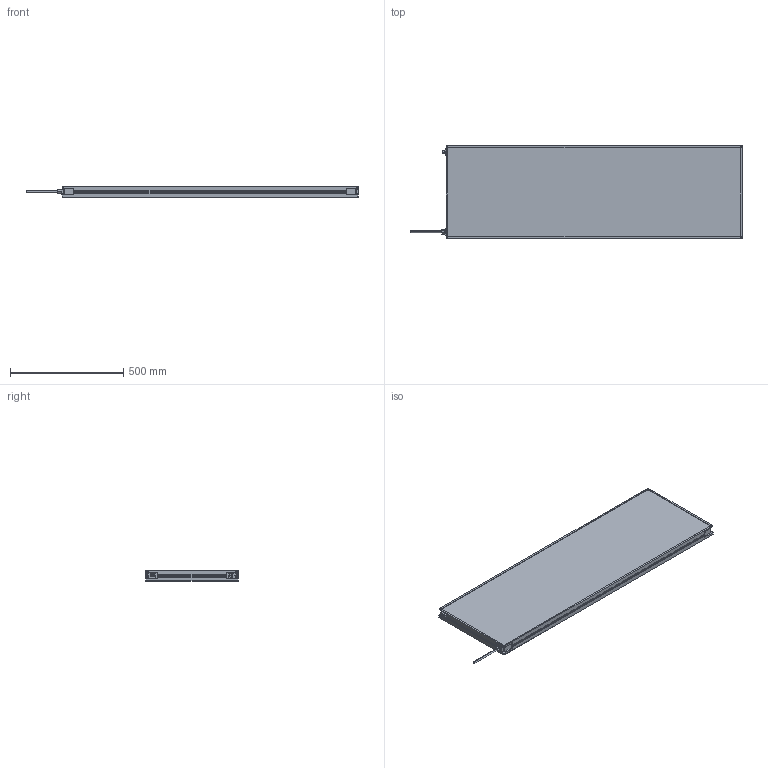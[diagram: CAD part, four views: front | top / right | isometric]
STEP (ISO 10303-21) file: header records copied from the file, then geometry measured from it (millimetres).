
FILE_DESCRIPTION (( 'STEP AP214' ), '1' );
FILE_NAME ('MBACK-xxxx-xxx-M1A2_CLIENT400x1300.STEP', '2022-04-01T11:36:19', ( '' ), ( '' ), 'SwSTEP 2.0', 'SolidWorks 2020', '' );
FILE_SCHEMA (( 'AUTOMOTIVE_DESIGN' ));
Length unit declared in the file: millimetre
Products named in the file (1): MBACK-xxxx-xxx-M1A2_CLIENT400x1300
Bounding box: 1467.4 x 408 x 45.5 mm (x, y, z)
Volume: 22208509.2 mm3; surface area: 1301223.3 mm2
Topology: 1 solids, 1 shells, 470 faces, 1210 edges, 804 vertices
Faces by surface type: plane 265, cylinder 117, bspline 80, cone 8
Entity records: 18046 total; most frequent: CARTESIAN_POINT 6837, ORIENTED_EDGE 2420, DIRECTION 2082, EDGE_CURVE 1210, VERTEX_POINT 804, LINE 800, VECTOR 800, AXIS2_PLACEMENT_3D 641
